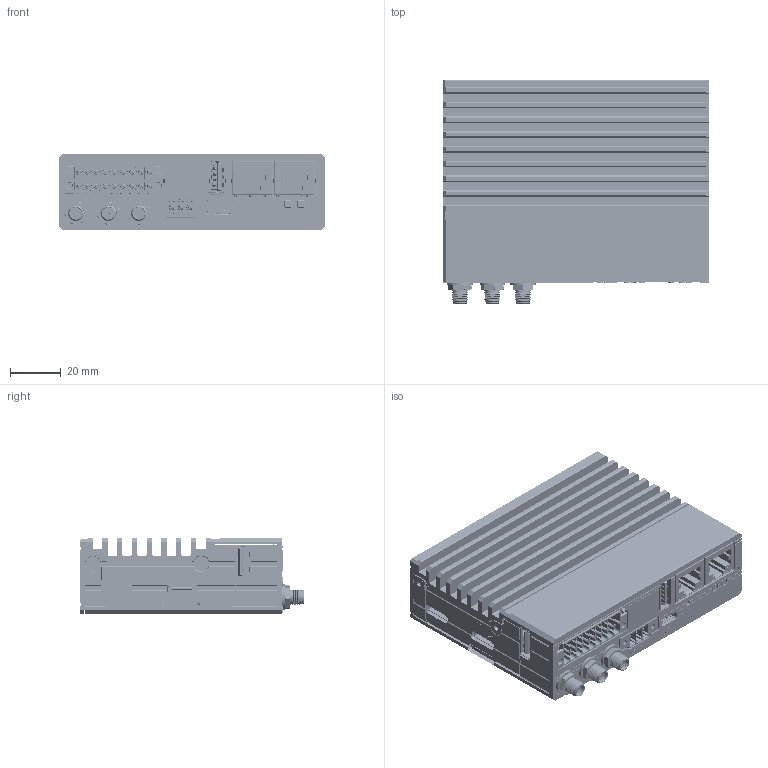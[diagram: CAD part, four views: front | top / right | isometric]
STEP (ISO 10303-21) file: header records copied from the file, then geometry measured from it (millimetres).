
FILE_DESCRIPTION (( 'STEP AP214' ), '1' );
FILE_NAME ('IOTG-RPI5model.STEP', '2026-05-24T13:15:18', ( 'admin' ), ( '' ), 'SwSTEP 2.0', 'SolidWorks 2019', '' );
FILE_SCHEMA (( 'AUTOMOTIVE_DESIGN' ));
Length unit declared in the file: millimetre
Products named in the file (1): IOTG-RPI5model
Bounding box: 105 x 87.9 x 30 mm (x, y, z)
Surface area: 93250 mm2 (no closed solid volume)
Topology: 0 solids, 151 shells, 15187 faces, 42719 edges, 27959 vertices
Faces by surface type: plane 9921, cylinder 4013, bspline 841, cone 374, torus 34, sphere 4
Full cylindrical faces by diameter (mm): 0.1 x2, 0.2 x1, 0.268 x1, 0.41 x1, 0.711 x8, 0.8 x4, 0.82 x2, 0.85 x2, 0.95 x2, 1 x2, 1.05 x1, 1.143 x8, 1.194 x2, 1.3 x3, 1.5 x4, 1.6 x1, 2 x1, 2.03 x10, 2.1 x4, 2.3 x4, 2.5 x6, 2.8 x3, 2.969 x1, 3 x8, 3.332 x1, 3.4 x4, 3.6 x3, 3.8 x3, 4 x2, 4.5 x4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
Entity records: 682155 total; most frequent: CARTESIAN_POINT 131306, ORIENTED_EDGE 84312, DIRECTION 72341, EDGE_CURVE 42181, LINE 30625, VECTOR 30625, VERTEX_POINT 27796, AXIS2_PLACEMENT_3D 20858
